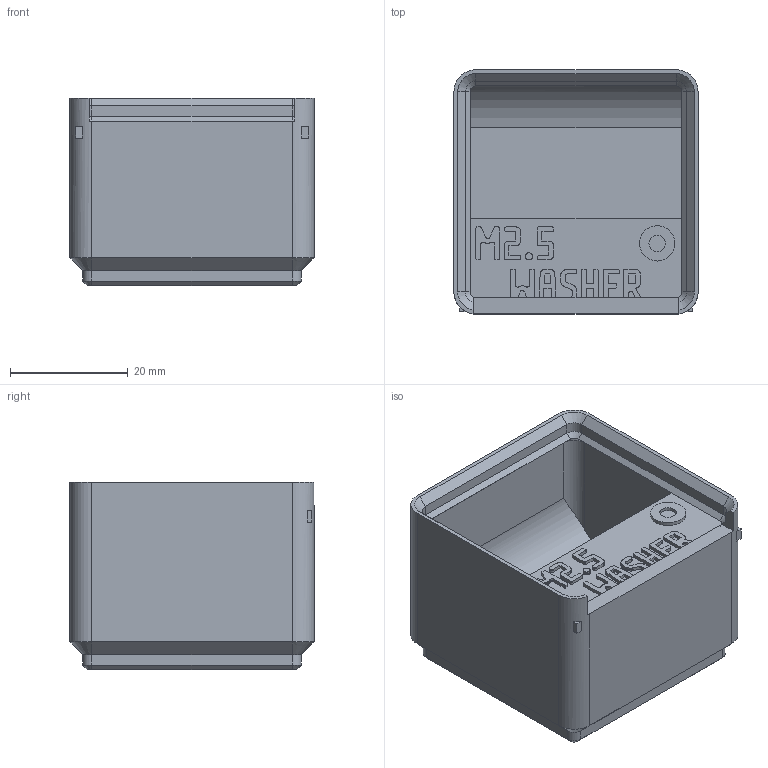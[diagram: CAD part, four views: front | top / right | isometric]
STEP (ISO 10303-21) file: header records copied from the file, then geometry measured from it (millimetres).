
FILE_DESCRIPTION(('Open CASCADE Model'),'2;1');
FILE_NAME('Open CASCADE Shape Model','2026-11-03T10:35:02',('Author'),( 'Open CASCADE'),'Open CASCADE STEP processor 8.0','build123d', 'Unknown');
FILE_SCHEMA(('AUTOMOTIVE_DESIGN { 1 0 10303 214 1 1 1 1 }'));
Products named in the file (1): COMPOUND
Bounding box: 41.5 x 41.5 x 31.9 mm (x, y, z)
Volume: 14615.9 mm3; surface area: 13188 mm2
Topology: 1 solids, 1 shells, 1098 faces, 3222 edges, 2132 vertices
Faces by surface type: plane 1059, cone 20, cylinder 19
Full cylindrical faces by diameter (mm): 2.8 x1, 6 x1
Entity records: 75406 total; most frequent: CARTESIAN_POINT 15875, DIRECTION 9342, LINE 7008, VECTOR 7008, ORIENTED_EDGE 6444, PCURVE 6444, DEFINITIONAL_REPRESENTATION 6444, EDGE_CURVE 3222
